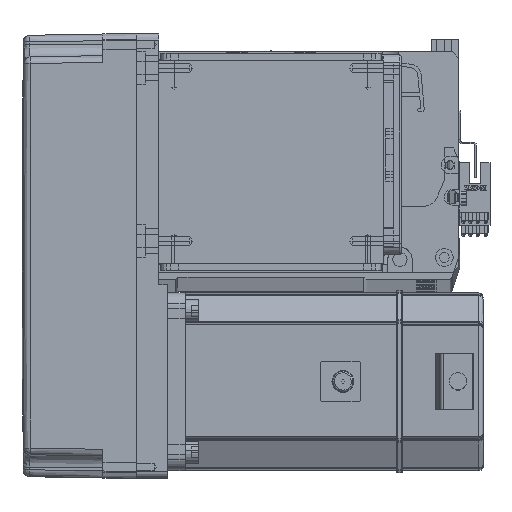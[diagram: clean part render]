
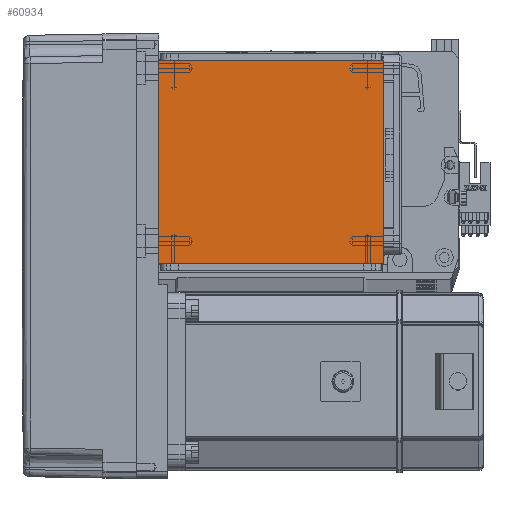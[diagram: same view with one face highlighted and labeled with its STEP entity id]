
A CAD part, top view. The second image highlights one B-rep face of the part: STEP entity #60934.
In plain terms, the highlighted planar face has unit normal (0, 0, 1).
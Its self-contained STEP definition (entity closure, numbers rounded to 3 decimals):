
#1679 = PLANE ( 'NONE',  #24427 ) ;
#2540 = LINE ( 'NONE', #4774, #66805 ) ;
#3722 = VECTOR ( 'NONE', #56103, 1000. ) ;
#4774 = CARTESIAN_POINT ( 'NONE',  ( -70.004, 20., 115. ) ) ;
#7708 = EDGE_CURVE ( 'NONE', #61937, #62949, #60313, .T. ) ;
#8466 = EDGE_CURVE ( 'NONE', #61937, #28005, #2540, .T. ) ;
#9095 = LINE ( 'NONE', #65496, #19759 ) ;
#11579 = EDGE_CURVE ( 'NONE', #33949, #62949, #17709, .T. ) ;
#17709 = LINE ( 'NONE', #51010, #3722 ) ;
#18464 = DIRECTION ( 'NONE',  ( 0., 0., 1. ) ) ;
#18498 = DIRECTION ( 'NONE',  ( 0., -1., 0. ) ) ;
#19759 = VECTOR ( 'NONE', #18498, 1000. ) ;
#23172 = CARTESIAN_POINT ( 'NONE',  ( -50.5, 20., 115. ) ) ;
#24427 = AXIS2_PLACEMENT_3D ( 'NONE', #50443, #18464, #64518 ) ;
#26546 = ORIENTED_EDGE ( 'NONE', *, *, #7708, .T. ) ;
#27701 = DIRECTION ( 'NONE',  ( 0., 1., 0. ) ) ;
#28005 = VERTEX_POINT ( 'NONE', #23172 ) ;
#30022 = FACE_OUTER_BOUND ( 'NONE', #39854, .T. ) ;
#33257 = CARTESIAN_POINT ( 'NONE',  ( 50.5, 122., 115. ) ) ;
#33949 = VERTEX_POINT ( 'NONE', #36394 ) ;
#36394 = CARTESIAN_POINT ( 'NONE',  ( -50.5, 111.5, 115. ) ) ;
#39004 = ORIENTED_EDGE ( 'NONE', *, *, #11579, .F. ) ;
#39854 = EDGE_LOOP ( 'NONE', ( #39004, #46857, #59494, #26546 ) ) ;
#46651 = DIRECTION ( 'NONE',  ( -1., 0., 0. ) ) ;
#46857 = ORIENTED_EDGE ( 'NONE', *, *, #63401, .T. ) ;
#50443 = CARTESIAN_POINT ( 'NONE',  ( 0., 0., 115. ) ) ;
#51010 = CARTESIAN_POINT ( 'NONE',  ( -70.004, 111.5, 115. ) ) ;
#56103 = DIRECTION ( 'NONE',  ( 1., 0., 0. ) ) ;
#59336 = CARTESIAN_POINT ( 'NONE',  ( 50.5, 20., 115. ) ) ;
#59494 = ORIENTED_EDGE ( 'NONE', *, *, #8466, .F. ) ;
#60313 = LINE ( 'NONE', #33257, #66141 ) ;
#60342 = CARTESIAN_POINT ( 'NONE',  ( 50.5, 111.5, 115. ) ) ;
#60934 = ADVANCED_FACE ( 'NONE', ( #30022 ), #1679, .T. ) ;
#61937 = VERTEX_POINT ( 'NONE', #59336 ) ;
#62949 = VERTEX_POINT ( 'NONE', #60342 ) ;
#63401 = EDGE_CURVE ( 'NONE', #33949, #28005, #9095, .T. ) ;
#64518 = DIRECTION ( 'NONE',  ( 1., 0., 0. ) ) ;
#65496 = CARTESIAN_POINT ( 'NONE',  ( -50.5, 122., 115. ) ) ;
#66141 = VECTOR ( 'NONE', #27701, 1000. ) ;
#66805 = VECTOR ( 'NONE', #46651, 1000. ) ;
